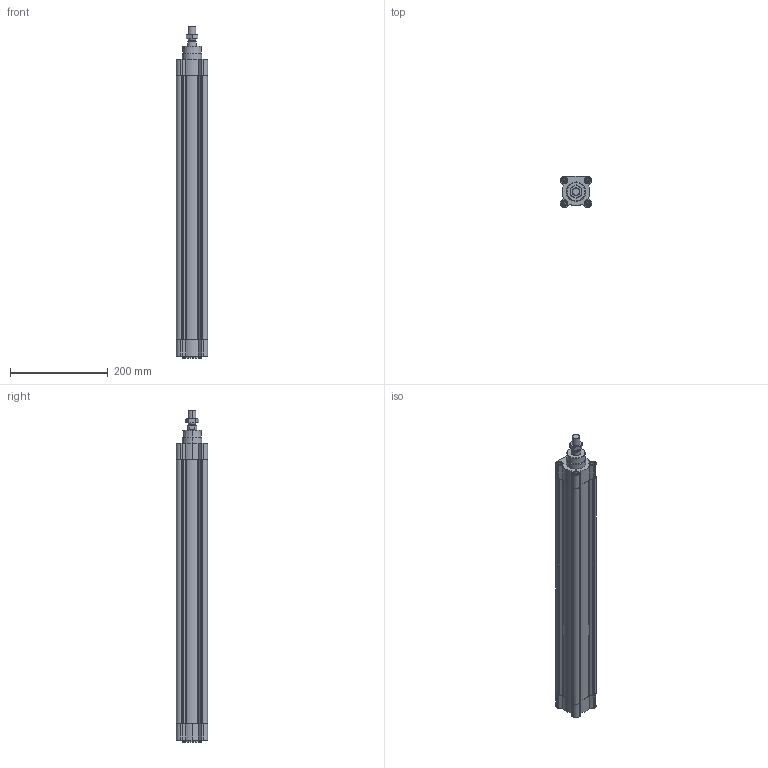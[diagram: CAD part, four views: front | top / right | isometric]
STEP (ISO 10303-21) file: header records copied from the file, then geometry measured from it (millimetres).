
FILE_DESCRIPTION (( 'STEP AP203' ), '1' );
FILE_NAME ('CPME50-500.STEP', '2023-07-20T18:09:50', ( '' ), ( '' ), 'SwSTEP 2.0', 'SolidWorks 2019', '' );
FILE_SCHEMA (( 'CONFIG_CONTROL_DESIGN' ));
Length unit declared in the file: millimetre
Products named in the file (1): CPME50-500
Bounding box: 64 x 64 x 677.8 mm (x, y, z)
Volume: 1221521.4 mm3; surface area: 341286.8 mm2
Topology: 3 solids, 3 shells, 639 faces, 1655 edges, 1050 vertices
Faces by surface type: plane 325, cylinder 200, cone 106, torus 8
Entity records: 20033 total; most frequent: CARTESIAN_POINT 4447, ORIENTED_EDGE 3278, DIRECTION 3187, EDGE_CURVE 1639, AXIS2_PLACEMENT_3D 1131, VERTEX_POINT 1050, LINE 925, VECTOR 925
